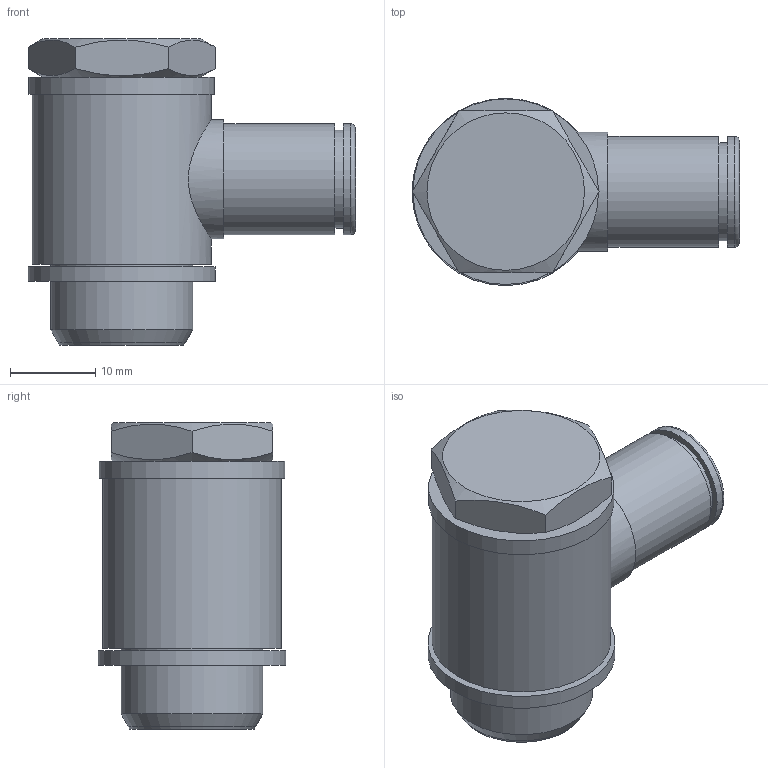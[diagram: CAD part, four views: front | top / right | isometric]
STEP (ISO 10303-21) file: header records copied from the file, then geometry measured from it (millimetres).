
FILE_DESCRIPTION(('Bauteilbeschreibung','HiCAD-Model','HiCAD-STEP-TRANSLATION','Bauteilbeschreibung'),'2;1');
FILE_NAME('B:/ABGLEICH/ZEICHNUNGEN/STEP FÜR INTERNET/STEP/S11209_IPSO_017_8_3-8.STP','2011-08-30T11:45:03+00:00',('Konstrukteur'),('Konstrukteur Firma GmbH'),' HiCAD neXt 2008, Step 3.1.1401.2J ','HiCAD neXt 2008','confidential');
FILE_SCHEMA(('AUTOMOTIVE_DESIGN { 1 2 10303 214 0 1 1 1 }'));
Length unit declared in the file: millimetre
Products named in the file (8): S11209_IPSO_017_8_3_8; DICHTRING 3_8; A4404A_HOHLSCHRAUBE_3_8_SW19; A4404A0HOHLSCHRAUBE03080SW19; G 3_8; A00044; DR8_1_NEU; R201209_N
Assembly tree (7 placements, depth 3):
  S11209_IPSO_017_8_3_8
    DICHTRING 3_8
    A4404A_HOHLSCHRAUBE_3_8_SW19
    A4404A0HOHLSCHRAUBE03080SW19
      G 3_8
    A00044
    DR8_1_NEU
    R201209_N
Bounding box: 38.5 x 22 x 36 mm (x, y, z)
Volume: 9038.1 mm3; surface area: 10139.5 mm2
Topology: 6 solids, 6 shells, 89 faces, 185 edges, 117 vertices
Faces by surface type: plane 35, cylinder 33, cone 20, torus 1
Full cylindrical faces by diameter (mm): 6 x2, 7 x1, 8.1 x1, 8.2 x1, 10 x1, 10.1 x1, 11 x1, 11.5 x1, 11.6 x1, 13 x2, 14 x1, 14.5 x1, 14.95 x2, 16.5 x2, 16.662 x1, 16.7 x1, 16.75 x2, 17.1 x1, 17.2 x1, 21 x1, 21.8 x1, 22 x1
Entity records: 6728 total; most frequent: CARTESIAN_POINT 4289, DIRECTION 392, ORIENTED_EDGE 240, AXIS2_PLACEMENT_3D 187, EDGE_LOOP 164, COLOUR_RGB 120, EDGE_CURVE 120, PRESENTATION_STYLE_ASSIGNMENT 120
